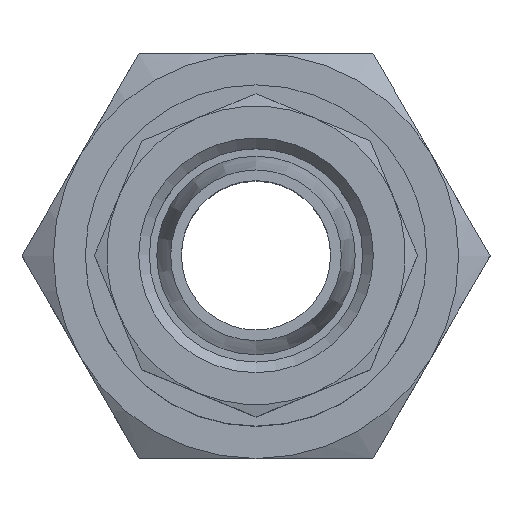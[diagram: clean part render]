
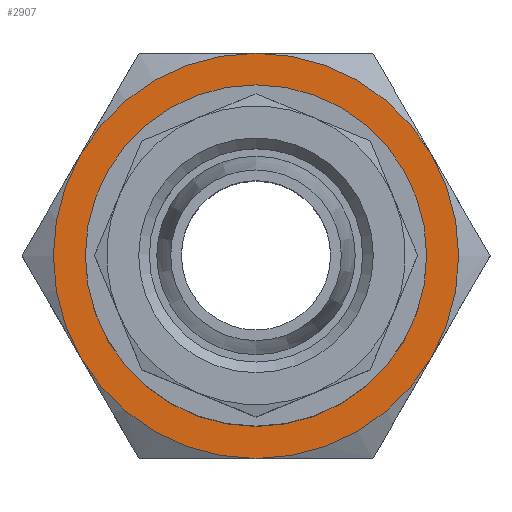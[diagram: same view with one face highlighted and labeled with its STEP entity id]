
A CAD part, top view. The second image highlights one B-rep face of the part: STEP entity #2907.
In plain terms, the highlighted planar face has unit normal (0, 0, 1) as drawn and (0, 1, 0) by its records, which use the part's own axes.
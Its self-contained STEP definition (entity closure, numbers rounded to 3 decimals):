
#1344=PLANE('',#2776);
#1451=ORIENTED_EDGE('',*,*,#1782,.F.);
#1452=ORIENTED_EDGE('',*,*,#1783,.F.);
#1453=ORIENTED_EDGE('',*,*,#1784,.F.);
#1454=ORIENTED_EDGE('',*,*,#1781,.F.);
#1455=ORIENTED_EDGE('',*,*,#1785,.F.);
#1456=ORIENTED_EDGE('',*,*,#1786,.F.);
#1457=ORIENTED_EDGE('',*,*,#1726,.F.);
#1590=CIRCLE('',#2695,6.3);
#1619=CIRCLE('',#2775,9.5);
#1620=CIRCLE('',#2777,9.5);
#1621=CIRCLE('',#2778,9.5);
#1622=CIRCLE('',#2779,9.5);
#1623=CIRCLE('',#2780,9.5);
#1624=CIRCLE('',#2781,9.5);
#1644=VERTEX_POINT('',#2420);
#1675=VERTEX_POINT('',#2506);
#1680=VERTEX_POINT('',#2518);
#1683=VERTEX_POINT('',#2528);
#1686=VERTEX_POINT('',#2538);
#1687=VERTEX_POINT('',#2544);
#1690=VERTEX_POINT('',#2557);
#1726=EDGE_CURVE('',#1644,#1644,#1590,.T.);
#1781=EDGE_CURVE('',#1687,#1686,#1619,.T.);
#1782=EDGE_CURVE('',#1680,#1675,#1620,.T.);
#1783=EDGE_CURVE('',#1683,#1680,#1621,.T.);
#1784=EDGE_CURVE('',#1686,#1683,#1622,.T.);
#1785=EDGE_CURVE('',#1690,#1687,#1623,.T.);
#1786=EDGE_CURVE('',#1675,#1690,#1624,.T.);
#1895=EDGE_LOOP('',(#1451,#1452,#1453,#1454,#1455,#1456));
#1896=EDGE_LOOP('',(#1457));
#2001=FACE_BOUND('',#1895,.T.);
#2002=FACE_BOUND('',#1896,.T.);
#2057=DIRECTION('',(0.,1.,0.));
#2058=DIRECTION('',(0.,0.,-6.3));
#2223=DIRECTION('',(0.,-1.,0.));
#2224=DIRECTION('',(-8.227,0.,-4.75));
#2225=DIRECTION('',(0.,1.,0.));
#2226=DIRECTION('',(1.,0.,0.));
#2227=DIRECTION('',(0.,-1.,0.));
#2228=DIRECTION('',(8.227,0.,4.75));
#2229=DIRECTION('',(0.,-1.,0.));
#2230=DIRECTION('',(8.227,0.,-4.75));
#2231=DIRECTION('',(0.,-1.,0.));
#2232=DIRECTION('',(0.,0.,-9.5));
#2233=DIRECTION('',(0.,-1.,0.));
#2234=DIRECTION('',(-8.227,0.,4.75));
#2235=DIRECTION('',(0.,-1.,0.));
#2236=DIRECTION('',(0.,0.,9.5));
#2420=CARTESIAN_POINT('',(24.774,29.67,-6.3));
#2421=CARTESIAN_POINT('',(24.774,29.67,0.));
#2506=CARTESIAN_POINT('',(24.774,29.67,9.5));
#2518=CARTESIAN_POINT('',(33.001,29.67,4.75));
#2528=CARTESIAN_POINT('',(33.001,29.67,-4.75));
#2538=CARTESIAN_POINT('',(24.774,29.67,-9.5));
#2544=CARTESIAN_POINT('',(16.547,29.67,-4.75));
#2552=CARTESIAN_POINT('',(24.774,29.67,0.));
#2553=CARTESIAN_POINT('',(34.274,29.67,0.));
#2554=CARTESIAN_POINT('',(24.774,29.67,0.));
#2555=CARTESIAN_POINT('',(24.774,29.67,0.));
#2556=CARTESIAN_POINT('',(24.774,29.67,0.));
#2557=CARTESIAN_POINT('',(16.547,29.67,4.75));
#2558=CARTESIAN_POINT('',(24.774,29.67,0.));
#2559=CARTESIAN_POINT('',(24.774,29.67,0.));
#2695=AXIS2_PLACEMENT_3D('',#2421,#2057,#2058);
#2775=AXIS2_PLACEMENT_3D('',#2552,#2223,#2224);
#2776=AXIS2_PLACEMENT_3D('',#2553,#2225,#2226);
#2777=AXIS2_PLACEMENT_3D('',#2554,#2227,#2228);
#2778=AXIS2_PLACEMENT_3D('',#2555,#2229,#2230);
#2779=AXIS2_PLACEMENT_3D('',#2556,#2231,#2232);
#2780=AXIS2_PLACEMENT_3D('',#2558,#2233,#2234);
#2781=AXIS2_PLACEMENT_3D('',#2559,#2235,#2236);
#2907=ADVANCED_FACE('',(#2001,#2002),#1344,.T.);
